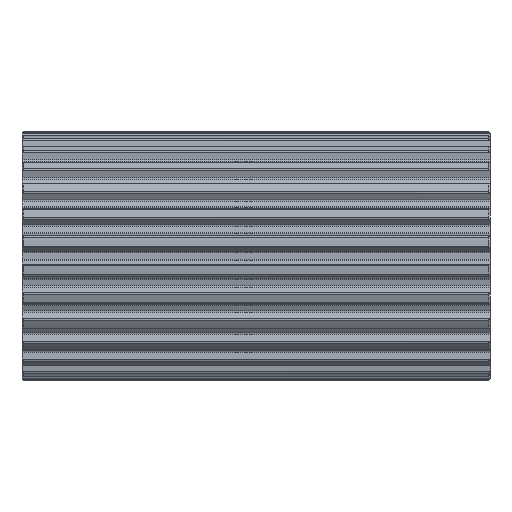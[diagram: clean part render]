
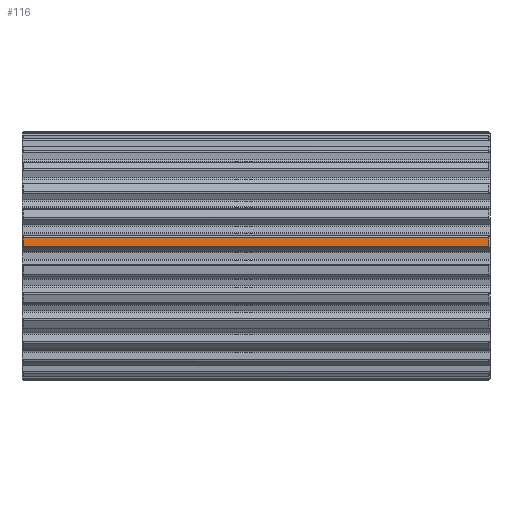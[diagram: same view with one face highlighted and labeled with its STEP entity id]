
A CAD part, front view. The second image highlights one B-rep face of the part: STEP entity #116.
In plain terms, the highlighted cylindrical face has radius 42.47 mm (diameter 84.94 mm), a partial arc.
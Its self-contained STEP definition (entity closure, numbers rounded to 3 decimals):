
#116=ADVANCED_FACE('',(#444),#445,.T.);
#444=FACE_OUTER_BOUND('',#1018,.T.);
#445=CYLINDRICAL_SURFACE('',#1019,42.47);
#1018=EDGE_LOOP('',(#1848,#1849,#1850,#1851));
#1019=AXIS2_PLACEMENT_3D('',#1852,#1853,#1854);
#1848=ORIENTED_EDGE('',*,*,#4241,.T.);
#1849=ORIENTED_EDGE('',*,*,#4242,.T.);
#1850=ORIENTED_EDGE('',*,*,#4243,.T.);
#1851=ORIENTED_EDGE('',*,*,#4244,.T.);
#1852=CARTESIAN_POINT('',(80.0,0.0,0.0));
#1853=DIRECTION('',(1.0,0.0,-0.0));
#1854=DIRECTION('',(0.0,0.116,0.993));
#4241=EDGE_CURVE('',#5253,#5262,#5264,.T.);
#4242=EDGE_CURVE('',#5262,#5265,#5266,.T.);
#4243=EDGE_CURVE('',#5265,#5267,#5268,.T.);
#4244=EDGE_CURVE('',#5267,#5253,#5269,.T.);
#5253=VERTEX_POINT('',#7513);
#5262=VERTEX_POINT('',#7547);
#5264=CIRCLE('',#7556,42.47);
#5265=VERTEX_POINT('',#7557);
#5266=LINE('',#7558,#7559);
#5267=VERTEX_POINT('',#7560);
#5268=CIRCLE('',#7561,42.47);
#5269=LINE('',#7562,#7563);
#7513=CARTESIAN_POINT('',(0.5,-41.974,6.469));
#7547=CARTESIAN_POINT('',(0.5,-42.335,3.385));
#7556=AXIS2_PLACEMENT_3D('',#9971,#9972,#9973);
#7557=CARTESIAN_POINT('',(159.5,-42.335,3.385));
#7558=CARTESIAN_POINT('',(80.0,-42.335,3.385));
#7559=VECTOR('',#9974,1.0);
#7560=CARTESIAN_POINT('',(159.5,-41.974,6.469));
#7561=AXIS2_PLACEMENT_3D('',#9975,#9976,#9977);
#7562=CARTESIAN_POINT('',(80.0,-41.974,6.469));
#7563=VECTOR('',#9978,1.0);
#9971=CARTESIAN_POINT('',(0.5,0.0,0.0));
#9972=DIRECTION('',(1.0,0.0,0.));
#9973=DIRECTION('',(0.,0.116,0.993));
#9974=DIRECTION('',(1.0,0.0,0.0));
#9975=CARTESIAN_POINT('',(159.5,0.0,0.0));
#9976=DIRECTION('',(-1.0,0.0,0.0));
#9977=DIRECTION('',(0.0,0.116,0.993));
#9978=DIRECTION('',(-1.0,0.0,0.0));
